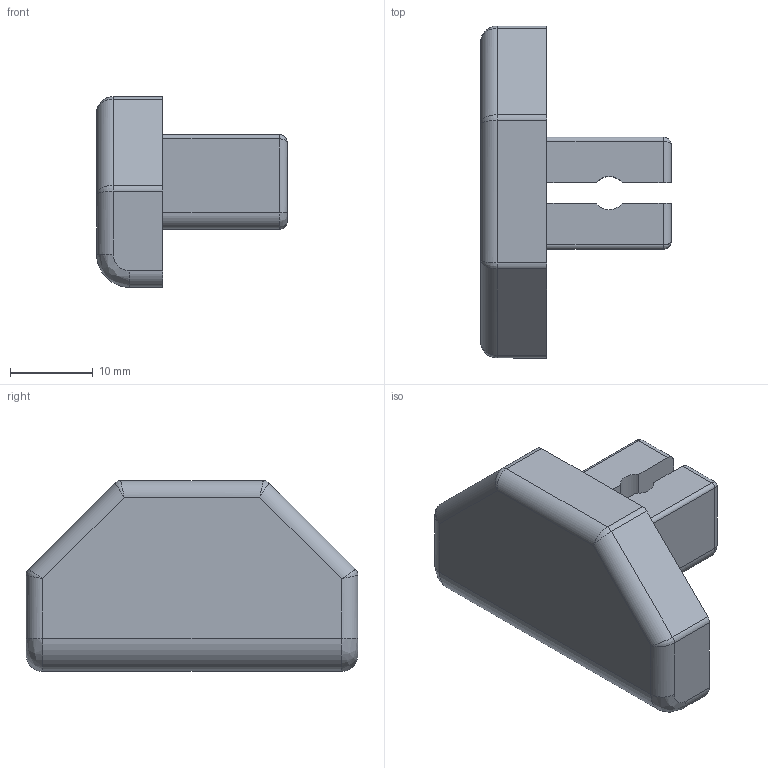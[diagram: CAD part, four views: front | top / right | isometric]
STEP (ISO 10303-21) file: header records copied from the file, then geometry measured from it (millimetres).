
FILE_DESCRIPTION (( 'STEP AP214' ), '1' );
FILE_NAME ('955-012.STEP', '2022-10-10T12:31:25', ( '' ), ( '' ), 'SwSTEP 2.0', 'SolidWorks 2022', '' );
FILE_SCHEMA (( 'AUTOMOTIVE_DESIGN' ));
Length unit declared in the file: millimetre
Products named in the file (1): 955-012
Bounding box: 23 x 40 x 23 mm (x, y, z)
Volume: 7990.5 mm3; surface area: 3315 mm2
Topology: 1 solids, 1 shells, 54 faces, 130 edges, 74 vertices
Faces by surface type: cylinder 24, plane 20, bspline 10
Entity records: 2008 total; most frequent: CARTESIAN_POINT 807, ORIENTED_EDGE 248, DIRECTION 234, EDGE_CURVE 124, AXIS2_PLACEMENT_3D 81, VERTEX_POINT 74, VECTOR 72, LINE 72
